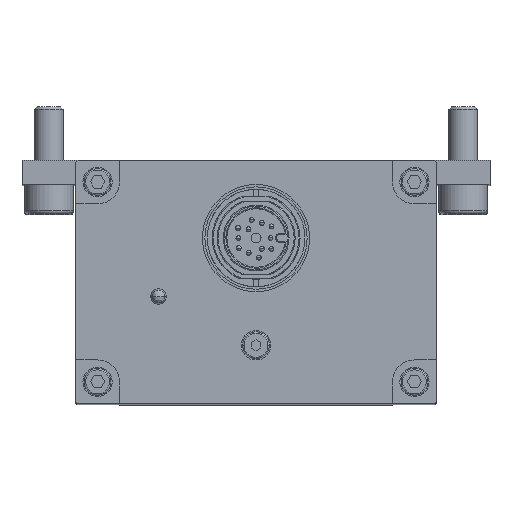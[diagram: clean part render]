
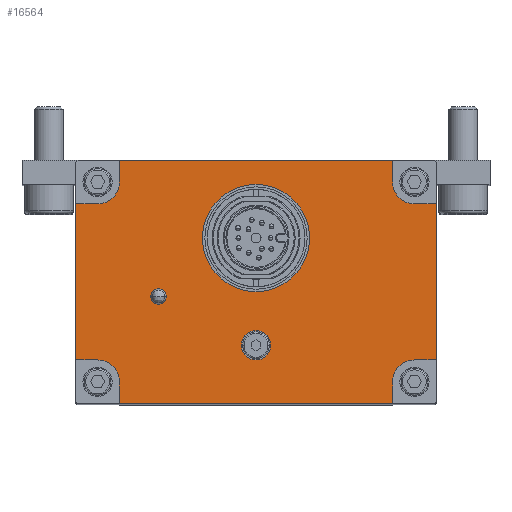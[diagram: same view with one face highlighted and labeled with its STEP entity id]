
A CAD part, top view. The second image highlights one B-rep face of the part: STEP entity #16564.
In plain terms, the highlighted planar face has unit normal (0, 0, 1).
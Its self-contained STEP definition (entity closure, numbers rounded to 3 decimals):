
#15941=CARTESIAN_POINT('',(105.052,45.897,265.678));
#15942=DIRECTION('',(0.,0.,-1.));
#15943=DIRECTION('',(1.,0.,0.));
#15944=AXIS2_PLACEMENT_3D('',#15941,#15942,#15943);
#15946=CARTESIAN_POINT('',(105.052,45.897,265.678));
#15947=DIRECTION('',(0.,0.,-1.));
#15948=DIRECTION('',(-1.,0.,0.));
#15949=AXIS2_PLACEMENT_3D('',#15946,#15947,#15948);
#15951=DIRECTION('',(-1.,0.,0.));
#15952=VECTOR('',#15951,4.5);
#15953=CARTESIAN_POINT('',(142.052,20.897,265.678));
#15954=LINE('',#15953,#15952);
#15955=DIRECTION('',(0.,1.,0.));
#15956=VECTOR('',#15955,4.5);
#15957=CARTESIAN_POINT('',(133.052,11.897,265.678));
#15958=LINE('',#15957,#15956);
#15959=DIRECTION('',(1.,0.,0.));
#15960=VECTOR('',#15959,56.);
#15961=CARTESIAN_POINT('',(77.052,11.897,265.678));
#15962=LINE('',#15961,#15960);
#15963=DIRECTION('',(0.,1.,0.));
#15964=VECTOR('',#15963,4.5);
#15965=CARTESIAN_POINT('',(77.052,11.897,265.678));
#15966=LINE('',#15965,#15964);
#15967=DIRECTION('',(1.,0.,0.));
#15968=VECTOR('',#15967,4.5);
#15969=CARTESIAN_POINT('',(68.052,20.897,265.678));
#15970=LINE('',#15969,#15968);
#15971=DIRECTION('',(0.,-1.,0.));
#15972=VECTOR('',#15971,32.);
#15973=CARTESIAN_POINT('',(68.052,52.897,265.678));
#15974=LINE('',#15973,#15972);
#15975=DIRECTION('',(1.,0.,0.));
#15976=VECTOR('',#15975,4.5);
#15977=CARTESIAN_POINT('',(68.052,52.897,265.678));
#15978=LINE('',#15977,#15976);
#15979=DIRECTION('',(0.,-1.,0.));
#15980=VECTOR('',#15979,4.5);
#15981=CARTESIAN_POINT('',(77.052,61.897,265.678));
#15982=LINE('',#15981,#15980);
#15983=DIRECTION('',(-1.,0.,0.));
#15984=VECTOR('',#15983,56.);
#15985=CARTESIAN_POINT('',(133.052,61.897,265.678));
#15986=LINE('',#15985,#15984);
#15987=DIRECTION('',(0.,-1.,0.));
#15988=VECTOR('',#15987,4.5);
#15989=CARTESIAN_POINT('',(133.052,61.897,265.678));
#15990=LINE('',#15989,#15988);
#15991=DIRECTION('',(-1.,0.,0.));
#15992=VECTOR('',#15991,4.5);
#15993=CARTESIAN_POINT('',(142.052,52.897,265.678));
#15994=LINE('',#15993,#15992);
#15995=DIRECTION('',(0.,1.,0.));
#15996=VECTOR('',#15995,32.);
#15997=CARTESIAN_POINT('',(142.052,20.897,265.678));
#15998=LINE('',#15997,#15996);
#15999=CARTESIAN_POINT('',(105.052,23.897,265.678));
#16000=DIRECTION('',(0.,0.,1.));
#16001=DIRECTION('',(-1.,0.,0.));
#16002=AXIS2_PLACEMENT_3D('',#15999,#16000,#16001);
#16004=CARTESIAN_POINT('',(105.052,23.897,265.678));
#16005=DIRECTION('',(0.,0.,1.));
#16006=DIRECTION('',(1.,0.,0.));
#16007=AXIS2_PLACEMENT_3D('',#16004,#16005,#16006);
#16009=CARTESIAN_POINT('',(85.052,33.897,265.678));
#16010=DIRECTION('',(0.,0.,1.));
#16011=DIRECTION('',(-1.,0.,0.));
#16012=AXIS2_PLACEMENT_3D('',#16009,#16010,#16011);
#16014=CARTESIAN_POINT('',(85.052,33.897,265.678));
#16015=DIRECTION('',(0.,0.,1.));
#16016=DIRECTION('',(1.,0.,0.));
#16017=AXIS2_PLACEMENT_3D('',#16014,#16015,#16016);
#16299=CARTESIAN_POINT('',(72.552,16.397,265.678));
#16300=DIRECTION('',(0.,0.,-1.));
#16301=DIRECTION('',(0.,1.,0.));
#16302=AXIS2_PLACEMENT_3D('',#16299,#16300,#16301);
#16304=CARTESIAN_POINT('',(137.552,16.397,265.678));
#16305=DIRECTION('',(0.,0.,-1.));
#16306=DIRECTION('',(-1.,0.,0.));
#16307=AXIS2_PLACEMENT_3D('',#16304,#16305,#16306);
#16309=CARTESIAN_POINT('',(137.552,57.397,265.678));
#16310=DIRECTION('',(0.,0.,-1.));
#16311=DIRECTION('',(0.,-1.,0.));
#16312=AXIS2_PLACEMENT_3D('',#16309,#16310,#16311);
#16314=CARTESIAN_POINT('',(72.552,57.397,265.678));
#16315=DIRECTION('',(0.,0.,-1.));
#16316=DIRECTION('',(1.,0.,0.));
#16317=AXIS2_PLACEMENT_3D('',#16314,#16315,#16316);
#16367=CARTESIAN_POINT('',(116.052,45.897,265.678));
#16368=CARTESIAN_POINT('',(94.052,45.897,265.678));
#16369=VERTEX_POINT('',#16367);
#16370=VERTEX_POINT('',#16368);
#16371=CARTESIAN_POINT('',(142.052,20.897,265.678));
#16373=VERTEX_POINT('',#16371);
#16375=CARTESIAN_POINT('',(142.052,52.897,265.678));
#16377=VERTEX_POINT('',#16375);
#16379=CARTESIAN_POINT('',(133.052,61.897,265.678));
#16381=VERTEX_POINT('',#16379);
#16383=CARTESIAN_POINT('',(77.052,61.897,265.678));
#16385=VERTEX_POINT('',#16383);
#16387=CARTESIAN_POINT('',(68.052,52.897,265.678));
#16389=VERTEX_POINT('',#16387);
#16391=CARTESIAN_POINT('',(68.052,20.897,265.678));
#16393=VERTEX_POINT('',#16391);
#16395=CARTESIAN_POINT('',(133.052,11.897,265.678));
#16397=VERTEX_POINT('',#16395);
#16399=CARTESIAN_POINT('',(77.052,11.897,265.678));
#16401=VERTEX_POINT('',#16399);
#16407=CARTESIAN_POINT('',(72.552,20.897,265.678));
#16408=VERTEX_POINT('',#16407);
#16409=CARTESIAN_POINT('',(77.052,16.397,265.678));
#16410=VERTEX_POINT('',#16409);
#16415=CARTESIAN_POINT('',(133.052,16.397,265.678));
#16416=VERTEX_POINT('',#16415);
#16417=CARTESIAN_POINT('',(137.552,20.897,265.678));
#16418=VERTEX_POINT('',#16417);
#16423=CARTESIAN_POINT('',(137.552,52.897,265.678));
#16424=VERTEX_POINT('',#16423);
#16425=CARTESIAN_POINT('',(133.052,57.397,265.678));
#16426=VERTEX_POINT('',#16425);
#16431=CARTESIAN_POINT('',(77.052,57.397,265.678));
#16432=VERTEX_POINT('',#16431);
#16433=CARTESIAN_POINT('',(72.552,52.897,265.678));
#16434=VERTEX_POINT('',#16433);
#16451=CARTESIAN_POINT('',(86.352,33.897,265.678));
#16452=CARTESIAN_POINT('',(83.752,33.897,265.678));
#16453=VERTEX_POINT('',#16451);
#16454=VERTEX_POINT('',#16452);
#16487=CARTESIAN_POINT('',(108.052,23.897,265.678));
#16488=CARTESIAN_POINT('',(102.052,23.897,265.678));
#16489=VERTEX_POINT('',#16487);
#16490=VERTEX_POINT('',#16488);
#16507=CARTESIAN_POINT('',(105.052,36.897,265.678));
#16508=DIRECTION('',(0.,0.,1.));
#16509=DIRECTION('',(-1.,0.,0.));
#16510=AXIS2_PLACEMENT_3D('',#16507,#16508,#16509);
#16511=PLANE('',#16510);
#16513=ORIENTED_EDGE('',*,*,#16512,.T.);
#16515=ORIENTED_EDGE('',*,*,#16514,.F.);
#16517=ORIENTED_EDGE('',*,*,#16516,.F.);
#16519=ORIENTED_EDGE('',*,*,#16518,.F.);
#16521=ORIENTED_EDGE('',*,*,#16520,.T.);
#16523=ORIENTED_EDGE('',*,*,#16522,.F.);
#16525=ORIENTED_EDGE('',*,*,#16524,.F.);
#16527=ORIENTED_EDGE('',*,*,#16526,.F.);
#16529=ORIENTED_EDGE('',*,*,#16528,.T.);
#16531=ORIENTED_EDGE('',*,*,#16530,.F.);
#16533=ORIENTED_EDGE('',*,*,#16532,.F.);
#16535=ORIENTED_EDGE('',*,*,#16534,.F.);
#16537=ORIENTED_EDGE('',*,*,#16536,.T.);
#16539=ORIENTED_EDGE('',*,*,#16538,.F.);
#16541=ORIENTED_EDGE('',*,*,#16540,.F.);
#16543=ORIENTED_EDGE('',*,*,#16542,.F.);
#16544=EDGE_LOOP('',(#16513,#16515,#16517,#16519,#16521,#16523,#16525,#16527,
#16529,#16531,#16533,#16535,#16537,#16539,#16541,#16543));
#16545=FACE_OUTER_BOUND('',#16544,.F.);
#16547=ORIENTED_EDGE('',*,*,#16546,.F.);
#16549=ORIENTED_EDGE('',*,*,#16548,.F.);
#16550=EDGE_LOOP('',(#16547,#16549));
#16551=FACE_BOUND('',#16550,.F.);
#16553=ORIENTED_EDGE('',*,*,#16552,.T.);
#16555=ORIENTED_EDGE('',*,*,#16554,.T.);
#16556=EDGE_LOOP('',(#16553,#16555));
#16557=FACE_BOUND('',#16556,.F.);
#16559=ORIENTED_EDGE('',*,*,#16558,.T.);
#16561=ORIENTED_EDGE('',*,*,#16560,.T.);
#16562=EDGE_LOOP('',(#16559,#16561));
#16563=FACE_BOUND('',#16562,.F.);
#16564=ADVANCED_FACE('',(#16545,#16551,#16557,#16563),#16511,.T.);
#15945=CIRCLE('',#15944,11.);
#15950=CIRCLE('',#15949,11.);
#16003=CIRCLE('',#16002,3.);
#16008=CIRCLE('',#16007,3.);
#16013=CIRCLE('',#16012,1.3);
#16018=CIRCLE('',#16017,1.3);
#16303=CIRCLE('',#16302,4.5);
#16308=CIRCLE('',#16307,4.5);
#16313=CIRCLE('',#16312,4.5);
#16318=CIRCLE('',#16317,4.5);
#16512=EDGE_CURVE('',#16373,#16418,#15954,.T.);
#16514=EDGE_CURVE('',#16416,#16418,#16308,.T.);
#16516=EDGE_CURVE('',#16397,#16416,#15958,.T.);
#16518=EDGE_CURVE('',#16401,#16397,#15962,.T.);
#16520=EDGE_CURVE('',#16401,#16410,#15966,.T.);
#16522=EDGE_CURVE('',#16408,#16410,#16303,.T.);
#16524=EDGE_CURVE('',#16393,#16408,#15970,.T.);
#16526=EDGE_CURVE('',#16389,#16393,#15974,.T.);
#16528=EDGE_CURVE('',#16389,#16434,#15978,.T.);
#16530=EDGE_CURVE('',#16432,#16434,#16318,.T.);
#16532=EDGE_CURVE('',#16385,#16432,#15982,.T.);
#16534=EDGE_CURVE('',#16381,#16385,#15986,.T.);
#16536=EDGE_CURVE('',#16381,#16426,#15990,.T.);
#16538=EDGE_CURVE('',#16424,#16426,#16313,.T.);
#16540=EDGE_CURVE('',#16377,#16424,#15994,.T.);
#16542=EDGE_CURVE('',#16373,#16377,#15998,.T.);
#16546=EDGE_CURVE('',#16369,#16370,#15945,.T.);
#16548=EDGE_CURVE('',#16370,#16369,#15950,.T.);
#16552=EDGE_CURVE('',#16490,#16489,#16003,.T.);
#16554=EDGE_CURVE('',#16489,#16490,#16008,.T.);
#16558=EDGE_CURVE('',#16454,#16453,#16013,.T.);
#16560=EDGE_CURVE('',#16453,#16454,#16018,.T.);
